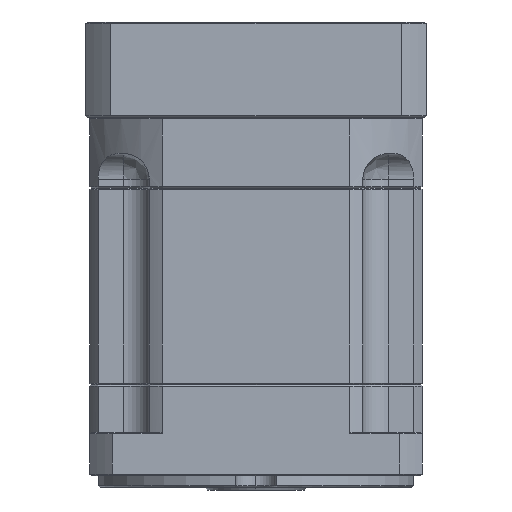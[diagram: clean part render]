
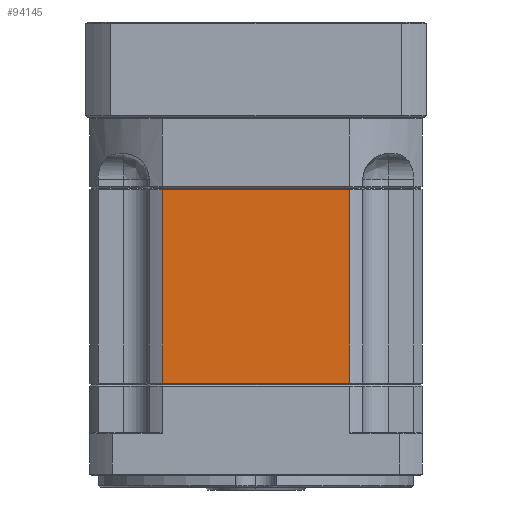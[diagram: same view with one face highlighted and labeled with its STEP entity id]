
A CAD part, left-side view. The second image highlights one B-rep face of the part: STEP entity #94145.
In plain terms, the highlighted planar face has unit normal (-1, 0, 0).
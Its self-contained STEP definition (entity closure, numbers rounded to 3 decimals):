
#2334 = DIRECTION ( 'NONE',  ( 1., 0., 0. ) ) ;
#5420 = CARTESIAN_POINT ( 'NONE',  ( -8.701, 43.712, -40.212 ) ) ;
#12072 = DIRECTION ( 'NONE',  ( 0., 0., -1. ) ) ;
#16371 = VECTOR ( 'NONE', #52764, 1000. ) ;
#17947 = CARTESIAN_POINT ( 'NONE',  ( -8.701, 43.712, -107.212 ) ) ;
#18854 = ORIENTED_EDGE ( 'NONE', *, *, #116489, .F. ) ;
#19660 = EDGE_LOOP ( 'NONE', ( #18854, #82359, #93012, #40655 ) ) ;
#20822 = DIRECTION ( 'NONE',  ( 0., -1., 0. ) ) ;
#26797 = VECTOR ( 'NONE', #92124, 1000. ) ;
#34065 = CARTESIAN_POINT ( 'NONE',  ( -8.701, 43.712, -296.255 ) ) ;
#38810 = VERTEX_POINT ( 'NONE', #17947 ) ;
#40655 = ORIENTED_EDGE ( 'NONE', *, *, #49898, .F. ) ;
#41979 = CARTESIAN_POINT ( 'NONE',  ( -8.701, 108.512, -39.712 ) ) ;
#45719 = VERTEX_POINT ( 'NONE', #132915 ) ;
#48571 = CARTESIAN_POINT ( 'NONE',  ( -8.701, 108.512, -107.212 ) ) ;
#49898 = EDGE_CURVE ( 'NONE', #118026, #45719, #79399, .T. ) ;
#52764 = DIRECTION ( 'NONE',  ( 0., 0., 1. ) ) ;
#53270 = PLANE ( 'NONE',  #72702 ) ;
#54125 = CARTESIAN_POINT ( 'NONE',  ( -8.701, 18.612, -39.712 ) ) ;
#58970 = FACE_OUTER_BOUND ( 'NONE', #19660, .T. ) ;
#72633 = CARTESIAN_POINT ( 'NONE',  ( -8.701, 18.612, -107.212 ) ) ;
#72702 = AXIS2_PLACEMENT_3D ( 'NONE', #54125, #2334, #74536 ) ;
#74536 = DIRECTION ( 'NONE',  ( 0., 1., 0. ) ) ;
#78230 = EDGE_CURVE ( 'NONE', #45719, #131848, #104759, .T. ) ;
#79399 = LINE ( 'NONE', #41979, #16371 ) ;
#82359 = ORIENTED_EDGE ( 'NONE', *, *, #124719, .F. ) ;
#88300 = LINE ( 'NONE', #72633, #26797 ) ;
#89957 = LINE ( 'NONE', #34065, #93276 ) ;
#92124 = DIRECTION ( 'NONE',  ( 0., 1., 0. ) ) ;
#93012 = ORIENTED_EDGE ( 'NONE', *, *, #78230, .F. ) ;
#93276 = VECTOR ( 'NONE', #12072, 1000. ) ;
#94145 = ADVANCED_FACE ( 'NONE', ( #58970 ), #53270, .F. ) ;
#104759 = LINE ( 'NONE', #124341, #107937 ) ;
#107937 = VECTOR ( 'NONE', #20822, 1000. ) ;
#116489 = EDGE_CURVE ( 'NONE', #38810, #118026, #88300, .T. ) ;
#118026 = VERTEX_POINT ( 'NONE', #48571 ) ;
#124341 = CARTESIAN_POINT ( 'NONE',  ( -8.701, 76.112, -40.212 ) ) ;
#124719 = EDGE_CURVE ( 'NONE', #131848, #38810, #89957, .T. ) ;
#131848 = VERTEX_POINT ( 'NONE', #5420 ) ;
#132915 = CARTESIAN_POINT ( 'NONE',  ( -8.701, 108.512, -40.212 ) ) ;
